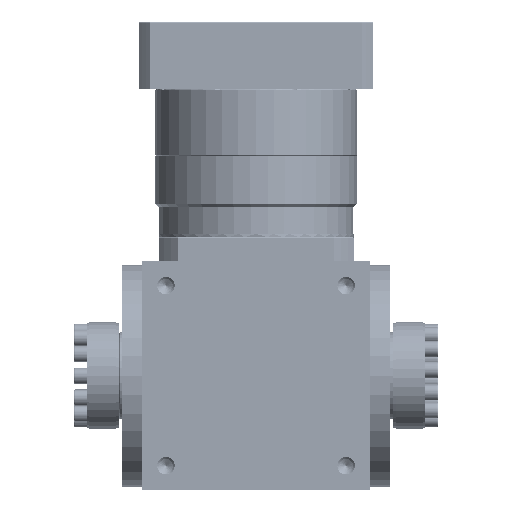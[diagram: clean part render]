
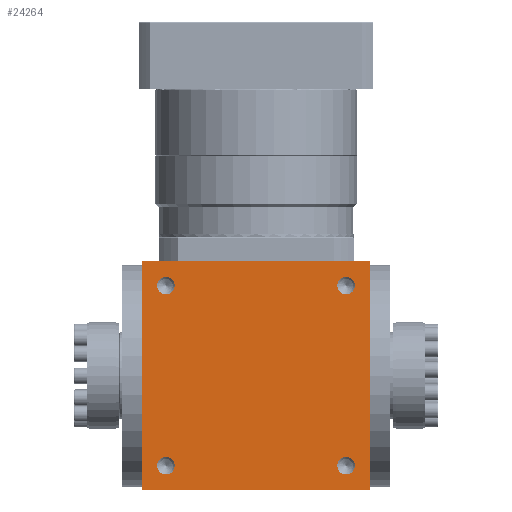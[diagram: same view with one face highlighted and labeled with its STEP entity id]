
A CAD part, front view. The second image highlights one B-rep face of the part: STEP entity #24264.
In plain terms, the highlighted planar face has unit normal (0, -1, 0).
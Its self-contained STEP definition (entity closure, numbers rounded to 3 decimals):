
#1815 = ORIENTED_EDGE ( 'NONE', *, *, #76201, .F. ) ;
#4677 = LINE ( 'NONE', #73554, #116325 ) ;
#4836 = DIRECTION ( 'NONE',  ( 0., -1., 0. ) ) ;
#5566 = CARTESIAN_POINT ( 'NONE',  ( 47.201, -66.037, 204. ) ) ;
#5734 = CIRCLE ( 'NONE', #130247, 6.5 ) ;
#6736 = EDGE_CURVE ( 'NONE', #58670, #6832, #62277, .T. ) ;
#6763 = VERTEX_POINT ( 'NONE', #95250 ) ;
#6795 = CARTESIAN_POINT ( 'NONE',  ( -19.799, -66.037, 271. ) ) ;
#6818 = DIRECTION ( 'NONE',  ( 0., 0., -1. ) ) ;
#6832 = VERTEX_POINT ( 'NONE', #147638 ) ;
#7805 = ORIENTED_EDGE ( 'NONE', *, *, #9638, .F. ) ;
#7949 = CIRCLE ( 'NONE', #118025, 6.5 ) ;
#8315 = EDGE_CURVE ( 'NONE', #78378, #16846, #32751, .T. ) ;
#9638 = EDGE_CURVE ( 'NONE', #65373, #6763, #123798, .T. ) ;
#10189 = DIRECTION ( 'NONE',  ( -1., 0., 0. ) ) ;
#12066 = CARTESIAN_POINT ( 'NONE',  ( -93.299, -66.037, 204. ) ) ;
#12612 = CIRCLE ( 'NONE', #117982, 6.5 ) ;
#14569 = CARTESIAN_POINT ( 'NONE',  ( 53.701, -66.037, 204. ) ) ;
#15838 = FACE_BOUND ( 'NONE', #130063, .T. ) ;
#16846 = VERTEX_POINT ( 'NONE', #130280 ) ;
#18040 = FACE_BOUND ( 'NONE', #90556, .T. ) ;
#18064 = CARTESIAN_POINT ( 'NONE',  ( 65.201, -66.037, 186. ) ) ;
#18158 = DIRECTION ( 'NONE',  ( 0., -1., 0. ) ) ;
#18535 = AXIS2_PLACEMENT_3D ( 'NONE', #134260, #18158, #145502 ) ;
#19950 = DIRECTION ( 'NONE',  ( 0., -1., 0. ) ) ;
#19988 = AXIS2_PLACEMENT_3D ( 'NONE', #38763, #40225, #85919 ) ;
#20658 = ORIENTED_EDGE ( 'NONE', *, *, #76899, .F. ) ;
#24264 = ADVANCED_FACE ( 'NONE', ( #40508, #15838, #39035, #18040, #143194 ), #98168, .F. ) ;
#25460 = VERTEX_POINT ( 'NONE', #58575 ) ;
#27953 = AXIS2_PLACEMENT_3D ( 'NONE', #5566, #4836, #74439 ) ;
#28767 = DIRECTION ( 'NONE',  ( -1., 0., 0. ) ) ;
#29996 = DIRECTION ( 'NONE',  ( 1., 0., 0. ) ) ;
#30219 = EDGE_LOOP ( 'NONE', ( #31430, #69965 ) ) ;
#31430 = ORIENTED_EDGE ( 'NONE', *, *, #145869, .F. ) ;
#32751 = CIRCLE ( 'NONE', #27953, 6.5 ) ;
#33929 = EDGE_CURVE ( 'NONE', #6763, #65373, #12612, .T. ) ;
#34939 = EDGE_CURVE ( 'NONE', #119038, #62123, #92264, .T. ) ;
#38033 = AXIS2_PLACEMENT_3D ( 'NONE', #51300, #118030, #96993 ) ;
#38763 = CARTESIAN_POINT ( 'NONE',  ( -86.799, -66.037, 338. ) ) ;
#39035 = FACE_BOUND ( 'NONE', #30219, .T. ) ;
#40067 = VERTEX_POINT ( 'NONE', #86727 ) ;
#40225 = DIRECTION ( 'NONE',  ( 0., -1., 0. ) ) ;
#40508 = FACE_BOUND ( 'NONE', #83091, .T. ) ;
#41306 = AXIS2_PLACEMENT_3D ( 'NONE', #6795, #108697, #29996 ) ;
#47726 = AXIS2_PLACEMENT_3D ( 'NONE', #100037, #88791, #134544 ) ;
#50011 = CIRCLE ( 'NONE', #38033, 6.5 ) ;
#51300 = CARTESIAN_POINT ( 'NONE',  ( -86.799, -66.037, 204. ) ) ;
#52539 = DIRECTION ( 'NONE',  ( 1., 0., 0. ) ) ;
#57322 = EDGE_LOOP ( 'NONE', ( #104313, #143541, #99907, #136817 ) ) ;
#58575 = CARTESIAN_POINT ( 'NONE',  ( -80.299, -66.037, 204. ) ) ;
#58670 = VERTEX_POINT ( 'NONE', #134832 ) ;
#60356 = EDGE_CURVE ( 'NONE', #25460, #63203, #50011, .T. ) ;
#60636 = VECTOR ( 'NONE', #105750, 1000. ) ;
#62123 = VERTEX_POINT ( 'NONE', #68415 ) ;
#62277 = LINE ( 'NONE', #18064, #101852 ) ;
#63203 = VERTEX_POINT ( 'NONE', #12066 ) ;
#65373 = VERTEX_POINT ( 'NONE', #87973 ) ;
#68415 = CARTESIAN_POINT ( 'NONE',  ( -104.799, -66.037, 356. ) ) ;
#69325 = EDGE_CURVE ( 'NONE', #62123, #58670, #4677, .T. ) ;
#69965 = ORIENTED_EDGE ( 'NONE', *, *, #60356, .F. ) ;
#72467 = LINE ( 'NONE', #107691, #124226 ) ;
#73554 = CARTESIAN_POINT ( 'NONE',  ( -104.799, -66.037, 356. ) ) ;
#74439 = DIRECTION ( 'NONE',  ( -1., 0., 0. ) ) ;
#75648 = EDGE_CURVE ( 'NONE', #6832, #119038, #72467, .T. ) ;
#76201 = EDGE_CURVE ( 'NONE', #16846, #78378, #102811, .T. ) ;
#76899 = EDGE_CURVE ( 'NONE', #110551, #40067, #120527, .T. ) ;
#78378 = VERTEX_POINT ( 'NONE', #14569 ) ;
#78684 = ORIENTED_EDGE ( 'NONE', *, *, #105585, .F. ) ;
#83091 = EDGE_LOOP ( 'NONE', ( #1815, #143004 ) ) ;
#85196 = DIRECTION ( 'NONE',  ( -1., 0., 0. ) ) ;
#85919 = DIRECTION ( 'NONE',  ( -1., 0., 0. ) ) ;
#86727 = CARTESIAN_POINT ( 'NONE',  ( -80.299, -66.037, 338. ) ) ;
#87973 = CARTESIAN_POINT ( 'NONE',  ( 53.701, -66.037, 338. ) ) ;
#88791 = DIRECTION ( 'NONE',  ( 0., -1., 0. ) ) ;
#89975 = ORIENTED_EDGE ( 'NONE', *, *, #33929, .F. ) ;
#90556 = EDGE_LOOP ( 'NONE', ( #89975, #7805 ) ) ;
#92264 = LINE ( 'NONE', #138018, #60636 ) ;
#92770 = CARTESIAN_POINT ( 'NONE',  ( -93.299, -66.037, 338. ) ) ;
#93813 = CARTESIAN_POINT ( 'NONE',  ( -86.799, -66.037, 338. ) ) ;
#95250 = CARTESIAN_POINT ( 'NONE',  ( 40.701, -66.037, 338. ) ) ;
#96993 = DIRECTION ( 'NONE',  ( -1., 0., 0. ) ) ;
#98168 = PLANE ( 'NONE',  #41306 ) ;
#99907 = ORIENTED_EDGE ( 'NONE', *, *, #6736, .F. ) ;
#100037 = CARTESIAN_POINT ( 'NONE',  ( 47.201, -66.037, 204. ) ) ;
#101852 = VECTOR ( 'NONE', #6818, 1000. ) ;
#102811 = CIRCLE ( 'NONE', #47726, 6.5 ) ;
#104313 = ORIENTED_EDGE ( 'NONE', *, *, #34939, .F. ) ;
#105585 = EDGE_CURVE ( 'NONE', #40067, #110551, #7949, .T. ) ;
#105750 = DIRECTION ( 'NONE',  ( 0., 0., 1. ) ) ;
#107297 = DIRECTION ( 'NONE',  ( -1., 0., 0. ) ) ;
#107482 = DIRECTION ( 'NONE',  ( 0., -1., 0. ) ) ;
#107691 = CARTESIAN_POINT ( 'NONE',  ( -104.799, -66.037, 186. ) ) ;
#108697 = DIRECTION ( 'NONE',  ( 0., 1., 0. ) ) ;
#109681 = CARTESIAN_POINT ( 'NONE',  ( -86.799, -66.037, 204. ) ) ;
#110551 = VERTEX_POINT ( 'NONE', #92770 ) ;
#116325 = VECTOR ( 'NONE', #52539, 1000. ) ;
#117982 = AXIS2_PLACEMENT_3D ( 'NONE', #122599, #19950, #10189 ) ;
#118025 = AXIS2_PLACEMENT_3D ( 'NONE', #93813, #140321, #107297 ) ;
#118030 = DIRECTION ( 'NONE',  ( 0., -1., 0. ) ) ;
#119038 = VERTEX_POINT ( 'NONE', #146632 ) ;
#120527 = CIRCLE ( 'NONE', #19988, 6.5 ) ;
#122599 = CARTESIAN_POINT ( 'NONE',  ( 47.201, -66.037, 338. ) ) ;
#123798 = CIRCLE ( 'NONE', #18535, 6.5 ) ;
#124226 = VECTOR ( 'NONE', #85196, 1000. ) ;
#130063 = EDGE_LOOP ( 'NONE', ( #20658, #78684 ) ) ;
#130247 = AXIS2_PLACEMENT_3D ( 'NONE', #109681, #107482, #28767 ) ;
#130280 = CARTESIAN_POINT ( 'NONE',  ( 40.701, -66.037, 204. ) ) ;
#134260 = CARTESIAN_POINT ( 'NONE',  ( 47.201, -66.037, 338. ) ) ;
#134544 = DIRECTION ( 'NONE',  ( -1., 0., 0. ) ) ;
#134832 = CARTESIAN_POINT ( 'NONE',  ( 65.201, -66.037, 356. ) ) ;
#136817 = ORIENTED_EDGE ( 'NONE', *, *, #69325, .F. ) ;
#138018 = CARTESIAN_POINT ( 'NONE',  ( -104.799, -66.037, 186. ) ) ;
#140321 = DIRECTION ( 'NONE',  ( 0., -1., 0. ) ) ;
#143004 = ORIENTED_EDGE ( 'NONE', *, *, #8315, .F. ) ;
#143194 = FACE_OUTER_BOUND ( 'NONE', #57322, .T. ) ;
#143541 = ORIENTED_EDGE ( 'NONE', *, *, #75648, .F. ) ;
#145502 = DIRECTION ( 'NONE',  ( -1., 0., 0. ) ) ;
#145869 = EDGE_CURVE ( 'NONE', #63203, #25460, #5734, .T. ) ;
#146632 = CARTESIAN_POINT ( 'NONE',  ( -104.799, -66.037, 186. ) ) ;
#147638 = CARTESIAN_POINT ( 'NONE',  ( 65.201, -66.037, 186. ) ) ;
